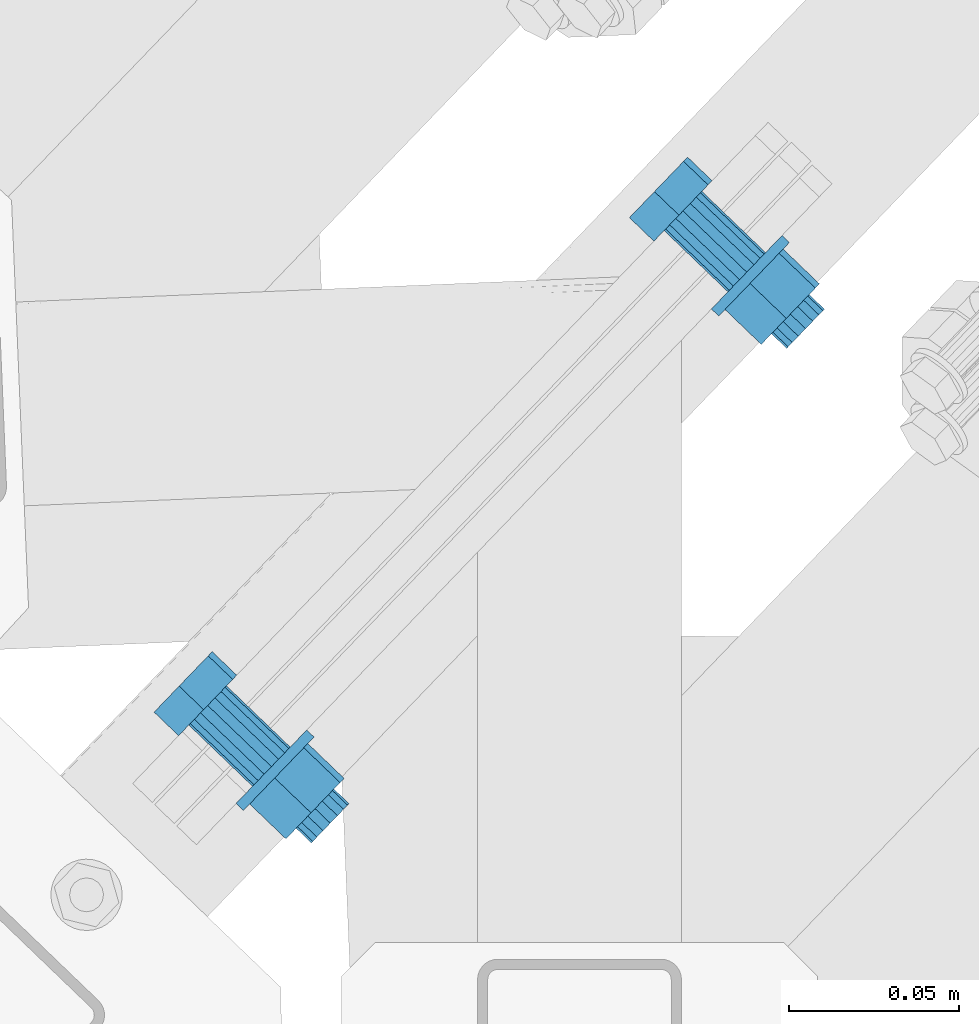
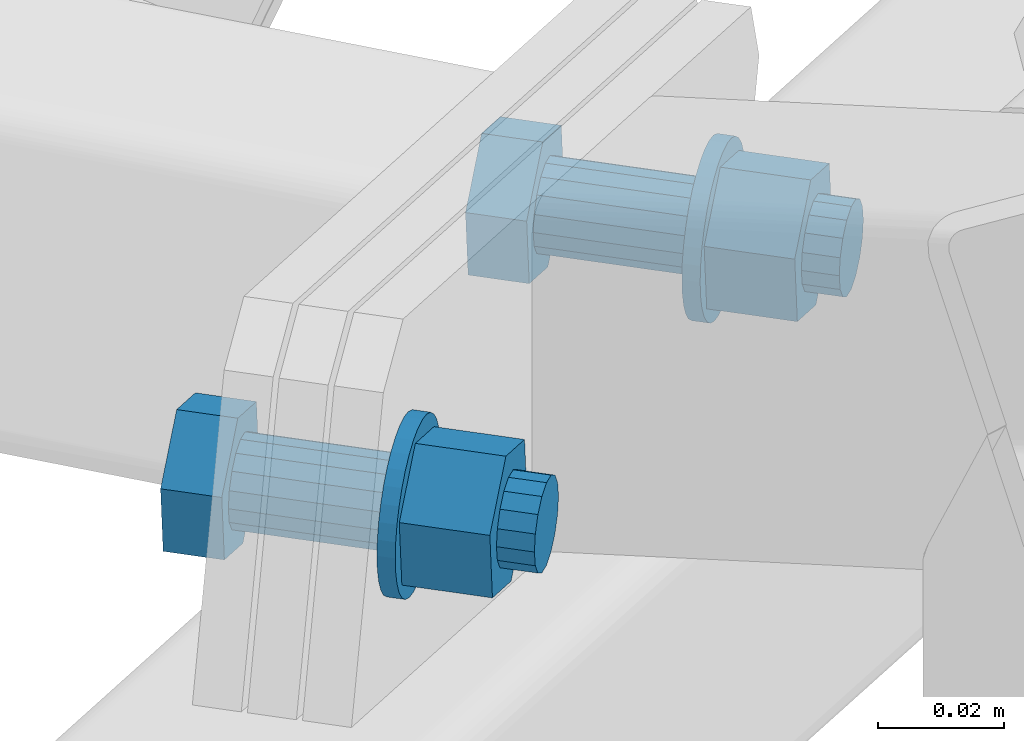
# One storey, part 186 of 288: 2 mechanical fasteners.
"""IFC2X3 building model written with IfcOpenShell, lengths in millimetres."""

from ifc_helpers import new_model, entity, si_unit, converted_unit, origin_with_axes, place, context, project, spatial, faceted_brep, element, save


model = new_model("IFC2X3")

# Units and contexts
model_context = context("Model", 3, precision=1e-09, world=origin_with_axes())
ifc_project = project(units=[si_unit("LENGTHUNIT", "METRE", prefix="MILLI"), si_unit("AREAUNIT", "SQUARE_METRE"), si_unit("VOLUMEUNIT", "CUBIC_METRE"), converted_unit("PLANEANGLEUNIT", "DEGREE", entity("IfcPlaneAngleMeasure", 0.01745329), si_unit("PLANEANGLEUNIT", "RADIAN"), dimensions=[0, 0, 0, 0, 0, 0, 0])], contexts=[model_context])

# Site, building, storey
site_placement = place(None, origin_with_axes())
site = spatial("IfcSite", under=ifc_project, at=site_placement, Name="Remont ?wietlik?w nad MC w NCPP w Opolu", CompositionType="ELEMENT")
building_placement = place(site_placement, origin_with_axes())
building = spatial("IfcBuilding", under=site, at=building_placement, Name="Konstrukcja 1", CompositionType="ELEMENT")
storey_placement = place(building_placement, origin_with_axes())
storey = spatial("IfcBuildingStorey", under=building, at=storey_placement, Name="Default Storey", CompositionType="ELEMENT", Elevation=0.0)

# Mechanical fasteners
mechanical_fastener_1_placement = place(None, origin_with_axes())
element("IfcMechanicalFastener", 1, at=mechanical_fastener_1_placement, inside=storey, ObjectType="-", NominalDiameter=16.0, NominalLength=50.0, context=model_context, shape_type="Brep", body=[
    faceted_brep([(103.271724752, 126.088726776, 1122.711382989), (96.062348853, 133.018726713, 1122.711382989), (103.429799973, 140.683189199, 1130.827250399), (110.639175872, 133.753189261, 1130.827250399), (102.242742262, 139.448276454, 1144.092110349), (109.452118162, 132.518276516, 1144.092110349), (93.688233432, 130.548901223, 1149.24110289), (100.897609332, 123.618901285, 1149.24110289), (86.320782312, 122.884438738, 1141.125235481), (93.530158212, 115.9544388, 1141.125235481), (87.507840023, 124.119351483, 1127.86037553), (94.717215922, 117.189351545, 1127.86037553)], [[[0, 1, 2, 3]], [[3, 2, 4, 5]], [[5, 4, 6, 7]], [[7, 6, 8, 9]], [[9, 8, 10, 11]], [[11, 10, 1, 0]], [[4, 2, 1, 10, 8, 6]], [[0, 3, 5, 7, 9, 11]]]),
    faceted_brep([(104.218948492, 127.074136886, 1143.359670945), (122.963325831, 109.056137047, 1143.359670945), (124.758945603, 110.92414542, 1141.619063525), (106.014568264, 128.942145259, 1141.619063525), (125.956273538, 112.169742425, 1139.019387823), (107.211896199, 130.187742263, 1139.019387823), (126.373027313, 112.603297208, 1135.956420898), (107.628649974, 130.621297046, 1135.956420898), (125.945759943, 112.158804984, 1132.8964717), (107.201382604, 130.176804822, 1132.8964717), (124.739519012, 110.903935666, 1130.305389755), (105.995141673, 128.921935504, 1130.305389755), (122.937943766, 109.02973173, 1128.577643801), (104.193566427, 127.047731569, 1128.577643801), (120.815307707, 106.821523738, 1127.976267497), (102.070930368, 124.839523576, 1127.976267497), (118.694762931, 104.615491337, 1128.592814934), (99.950385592, 122.633491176, 1128.592814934), (116.899143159, 102.747482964, 1130.333422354), (98.15476582, 120.765482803, 1130.333422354), (115.701815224, 101.50188596, 1132.933098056), (96.957437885, 119.519885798, 1132.933098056), (115.285061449, 101.068331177, 1135.996064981), (96.54068411, 119.086331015, 1135.996064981), (115.712328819, 101.5128234, 1139.056014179), (96.96795148, 119.530823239, 1139.056014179), (116.918569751, 102.767692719, 1141.647096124), (98.174192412, 120.785692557, 1141.647096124), (118.720144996, 104.641896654, 1143.374842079), (99.975767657, 122.659896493, 1143.374842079), (120.842781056, 106.850104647, 1143.976218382), (102.098403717, 124.868104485, 1143.976218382)], [[[0, 1, 2, 3]], [[3, 2, 4, 5]], [[5, 4, 6, 7]], [[7, 6, 8, 9]], [[9, 8, 10, 11]], [[11, 10, 12, 13]], [[13, 12, 14, 15]], [[15, 14, 16, 17]], [[17, 16, 18, 19]], [[19, 18, 20, 21]], [[21, 20, 22, 23]], [[23, 22, 24, 25]], [[25, 24, 26, 27]], [[27, 26, 28, 29]], [[29, 28, 30, 31]], [[31, 30, 1, 0]], [[0, 3, 5, 7, 9, 11, 13, 15, 17, 19, 21, 23, 25, 27, 29, 31]], [[1, 30, 28, 26, 24, 22, 20, 18, 16, 14, 12, 10, 8, 6, 4, 2]]]),
    faceted_brep([(124.830822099, 110.998919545, 1149.82017045), (126.993634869, 108.919919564, 1149.82017045), (128.788407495, 110.787046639, 1148.427600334), (126.625594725, 112.86604662, 1148.427600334), (130.360421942, 112.422435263, 1146.556531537), (128.197609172, 114.501435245, 1146.556531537), (131.649266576, 113.76323837, 1144.278868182), (129.486453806, 115.842238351, 1144.278868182), (132.605411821, 114.757929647, 1141.682139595), (130.442599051, 116.836929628, 1141.682139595), (133.192113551, 115.368283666, 1138.8661366), (131.029300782, 117.447283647, 1138.8661366), (133.386825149, 115.570844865, 1135.939076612), (131.224012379, 117.649844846, 1135.939076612), (133.182063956, 115.357828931, 1133.013444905), (131.019251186, 117.436828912, 1133.013444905), (132.58569883, 114.737421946, 1130.201671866), (130.42288606, 116.816421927, 1130.201671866), (131.620647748, 113.733465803, 1127.611812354), (129.457834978, 115.812465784, 1127.611812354), (130.323997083, 112.384541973, 1125.343393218), (128.161184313, 114.463541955, 1125.343393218), (128.745576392, 110.742488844, 1123.483588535), (126.582763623, 112.821488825, 1123.483588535), (126.946043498, 108.870409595, 1122.103869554), (124.783230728, 110.949409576, 1122.103869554), (124.99455344, 106.840247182, 1121.257258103), (122.83174067, 108.919247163, 1121.257258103), (122.966100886, 104.730019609, 1120.976288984), (120.803288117, 106.80901959, 1120.976288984), (120.938638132, 102.620821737, 1121.271759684), (118.775825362, 104.699821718, 1121.271759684), (118.990079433, 100.593708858, 1122.132315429), (116.827266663, 102.672708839, 1122.132315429), (117.195306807, 98.726581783, 1123.524885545), (115.032494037, 100.805581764, 1123.524885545), (115.62329236, 97.091193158, 1125.395954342), (113.46047959, 99.17019314, 1125.395954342), (114.334447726, 95.750390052, 1127.673617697), (112.171634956, 97.829390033, 1127.673617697), (113.378302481, 94.755698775, 1130.270346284), (111.215489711, 96.834698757, 1130.270346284), (112.791600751, 94.145344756, 1133.086349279), (110.628787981, 96.224344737, 1133.086349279), (112.596889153, 93.942783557, 1136.013409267), (110.434076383, 96.021783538, 1136.013409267), (112.801650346, 94.155799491, 1138.939040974), (110.638837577, 96.234799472, 1138.939040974), (113.398015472, 94.776206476, 1141.750814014), (111.235202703, 96.855206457, 1141.750814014), (114.363066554, 95.780162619, 1144.340673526), (112.200253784, 97.8591626, 1144.340673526), (115.659717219, 97.129086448, 1146.609092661), (113.496904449, 99.20808643, 1146.609092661), (117.23813791, 98.771139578, 1148.468897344), (115.07532514, 100.85013956, 1148.468897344), (119.037670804, 100.643218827, 1149.848616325), (116.874858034, 102.722218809, 1149.848616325), (120.989160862, 102.67338124, 1150.695227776), (118.826348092, 104.752381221, 1150.695227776), (123.017613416, 104.783608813, 1150.976196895), (120.854800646, 106.862608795, 1150.976196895), (125.04507617, 106.892806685, 1150.680726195), (122.8822634, 108.971806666, 1150.680726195)], [[[0, 1, 2, 3]], [[3, 2, 4, 5]], [[5, 4, 6, 7]], [[7, 6, 8, 9]], [[9, 8, 10, 11]], [[11, 10, 12, 13]], [[13, 12, 14, 15]], [[15, 14, 16, 17]], [[17, 16, 18, 19]], [[19, 18, 20, 21]], [[21, 20, 22, 23]], [[23, 22, 24, 25]], [[25, 24, 26, 27]], [[27, 26, 28, 29]], [[29, 28, 30, 31]], [[31, 30, 32, 33]], [[33, 32, 34, 35]], [[35, 34, 36, 37]], [[37, 36, 38, 39]], [[39, 38, 40, 41]], [[41, 40, 42, 43]], [[43, 42, 44, 45]], [[45, 44, 46, 47]], [[47, 46, 48, 49]], [[49, 48, 50, 51]], [[51, 50, 52, 53]], [[53, 52, 54, 55]], [[55, 54, 56, 57]], [[57, 56, 58, 59]], [[59, 58, 60, 61]], [[61, 60, 62, 63]], [[63, 62, 1, 0]], [[0, 3, 5, 7, 9, 11, 13, 15, 17, 19, 21, 23, 25, 27, 29, 31, 33, 35, 37, 39, 41, 43, 45, 47, 49, 51, 53, 55, 57, 59, 61, 63]], [[1, 62, 60, 58, 56, 54, 52, 50, 48, 46, 44, 42, 40, 38, 36, 34, 32, 30, 28, 26, 24, 22, 20, 18, 16, 14, 12, 10, 8, 6, 4, 2]]]),
    faceted_brep([(134.848791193, 95.735327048, 1122.711382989), (124.178914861, 105.991726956, 1122.711382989), (131.546365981, 113.656189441, 1130.827250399), (142.216242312, 103.399789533, 1130.827250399), (130.359308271, 112.421276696, 1144.092110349), (141.029184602, 102.164876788, 1144.092110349), (121.804799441, 103.521901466, 1149.24110289), (132.474675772, 93.265501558, 1149.24110289), (114.437348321, 95.857438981, 1141.125235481), (125.107224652, 85.601039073, 1141.125235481), (115.624406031, 97.092351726, 1127.86037553), (126.294282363, 86.835951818, 1127.86037553)], [[[0, 1, 2, 3]], [[3, 2, 4, 5]], [[5, 4, 6, 7]], [[7, 6, 8, 9]], [[9, 8, 10, 11]], [[11, 10, 1, 0]], [[4, 2, 1, 10, 8, 6]], [[0, 3, 5, 7, 9, 11]]]),
    faceted_brep([(135.796014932, 96.720737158, 1143.359670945), (140.26582799, 92.424137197, 1143.359670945), (142.061447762, 94.29214557, 1141.619063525), (137.591634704, 98.588745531, 1141.619063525), (143.258775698, 95.537742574, 1139.019387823), (138.78896264, 99.834342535, 1139.019387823), (143.675529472, 95.971297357, 1135.956420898), (139.205716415, 100.267897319, 1135.956420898), (143.248262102, 95.526805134, 1132.8964717), (138.778449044, 99.823405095, 1132.8964717), (142.042021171, 94.271935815, 1130.305389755), (137.572208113, 98.568535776, 1130.305389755), (140.240445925, 92.39773188, 1128.577643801), (135.770632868, 96.694331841, 1128.577643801), (138.117809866, 90.189523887, 1127.976267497), (133.647996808, 94.486123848, 1127.976267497), (135.99726509, 87.983491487, 1128.592814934), (131.527452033, 92.280091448, 1128.592814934), (134.201645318, 86.115483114, 1130.333422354), (129.731832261, 90.412083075, 1130.333422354), (133.004317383, 84.869886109, 1132.933098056), (128.534504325, 89.166486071, 1132.933098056), (132.587563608, 84.436331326, 1135.996064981), (128.11775055, 88.732931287, 1135.996064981), (133.014830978, 84.88082355, 1139.056014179), (128.545017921, 89.177423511, 1139.056014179), (134.22107191, 86.135692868, 1141.647096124), (129.751258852, 90.43229283, 1141.647096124), (136.022647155, 88.009896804, 1143.374842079), (131.552834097, 92.306496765, 1143.374842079), (138.145283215, 90.218104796, 1143.976218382), (133.675470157, 94.514704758, 1143.976218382)], [[[0, 1, 2, 3]], [[3, 2, 4, 5]], [[5, 4, 6, 7]], [[7, 6, 8, 9]], [[9, 8, 10, 11]], [[11, 10, 12, 13]], [[13, 12, 14, 15]], [[15, 14, 16, 17]], [[17, 16, 18, 19]], [[19, 18, 20, 21]], [[21, 20, 22, 23]], [[23, 22, 24, 25]], [[25, 24, 26, 27]], [[27, 26, 28, 29]], [[29, 28, 30, 31]], [[31, 30, 1, 0]], [[0, 3, 5, 7, 9, 11, 13, 15, 17, 19, 21, 23, 25, 27, 29, 31]], [[1, 30, 28, 26, 24, 22, 20, 18, 16, 14, 12, 10, 8, 6, 4, 2]]]),
])
mechanical_fastener_2_placement = place(None, origin_with_axes())
element("IfcMechanicalFastener", 2, at=mechanical_fastener_2_placement, inside=storey, ObjectType="-", NominalDiameter=16.0, NominalLength=50.0, context=model_context, shape_type="Brep", body=[
    faceted_brep([(-36.545565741, -19.365156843, 1206.375109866), (-43.75494164, -12.435156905, 1206.375109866), (-36.387490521, -4.77069442, 1214.490977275), (-29.178114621, -11.700694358, 1214.490977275), (-37.574548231, -6.005607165, 1227.755837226), (-30.365172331, -12.935607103, 1227.755837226), (-46.129057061, -14.904982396, 1232.904829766), (-38.919681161, -21.834982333, 1232.904829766), (-53.496508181, -22.569444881, 1224.788962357), (-46.287132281, -29.499444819, 1224.788962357), (-52.309450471, -21.334532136, 1211.524102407), (-45.100074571, -28.264532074, 1211.524102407)], [[[0, 1, 2, 3]], [[3, 2, 4, 5]], [[5, 4, 6, 7]], [[7, 6, 8, 9]], [[9, 8, 10, 11]], [[11, 10, 1, 0]], [[4, 2, 1, 10, 8, 6]], [[0, 3, 5, 7, 9, 11]]]),
    faceted_brep([(-35.598342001, -18.379746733, 1227.023397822), (-16.853964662, -36.397746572, 1227.023397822), (-15.05834489, -34.529738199, 1225.282790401), (-33.802722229, -16.51173836, 1225.282790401), (-13.861016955, -33.284141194, 1222.683114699), (-32.605394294, -15.266141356, 1222.683114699), (-13.44426318, -32.850586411, 1219.620147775), (-32.188640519, -14.832586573, 1219.620147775), (-13.87153055, -33.295078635, 1216.560198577), (-32.615907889, -15.277078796, 1216.560198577), (-15.077771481, -34.549947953, 1213.969116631), (-33.82214882, -16.531948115, 1213.969116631), (-16.879346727, -36.424151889, 1212.241370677), (-35.623724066, -18.40615205, 1212.241370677), (-19.001982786, -38.632359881, 1211.639994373), (-37.746360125, -20.614360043, 1211.639994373), (-21.122527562, -40.838392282, 1212.256541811), (-39.866904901, -22.820392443, 1212.256541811), (-22.918147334, -42.706400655, 1213.997149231), (-41.662524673, -24.688400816, 1213.997149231), (-24.115475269, -43.951997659, 1216.596824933), (-42.859852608, -25.933997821, 1216.596824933), (-24.532229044, -44.385552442, 1219.659791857), (-43.276606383, -26.367552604, 1219.659791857), (-24.104961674, -43.941060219, 1222.719741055), (-42.849339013, -25.92306038, 1222.719741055), (-22.898720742, -42.6861909, 1225.310823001), (-41.643098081, -24.668191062, 1225.310823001), (-21.097145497, -40.811986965, 1227.038568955), (-39.841522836, -22.793987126, 1227.038568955), (-18.974509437, -38.603778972, 1227.639945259), (-37.718886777, -20.585779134, 1227.639945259)], [[[0, 1, 2, 3]], [[3, 2, 4, 5]], [[5, 4, 6, 7]], [[7, 6, 8, 9]], [[9, 8, 10, 11]], [[11, 10, 12, 13]], [[13, 12, 14, 15]], [[15, 14, 16, 17]], [[17, 16, 18, 19]], [[19, 18, 20, 21]], [[21, 20, 22, 23]], [[23, 22, 24, 25]], [[25, 24, 26, 27]], [[27, 26, 28, 29]], [[29, 28, 30, 31]], [[31, 30, 1, 0]], [[0, 3, 5, 7, 9, 11, 13, 15, 17, 19, 21, 23, 25, 27, 29, 31]], [[1, 30, 28, 26, 24, 22, 20, 18, 16, 14, 12, 10, 8, 6, 4, 2]]]),
    faceted_brep([(-14.986468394, -34.454964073, 1233.483897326), (-12.823655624, -36.533964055, 1233.483897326), (-11.028882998, -34.66683698, 1232.091327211), (-13.191695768, -32.587836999, 1232.091327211), (-9.456868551, -33.031448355, 1230.220258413), (-11.619681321, -30.952448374, 1230.220258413), (-8.168023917, -31.690645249, 1227.942595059), (-10.330836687, -29.611645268, 1227.942595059), (-7.211878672, -30.695953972, 1225.345866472), (-9.374691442, -28.616953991, 1225.345866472), (-6.625176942, -30.085599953, 1222.529863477), (-8.787989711, -28.006599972, 1222.529863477), (-6.430465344, -29.883038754, 1219.602803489), (-8.593278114, -27.804038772, 1219.602803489), (-6.635226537, -30.096054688, 1216.677171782), (-8.798039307, -28.017054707, 1216.677171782), (-7.231591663, -30.716461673, 1213.865398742), (-9.394404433, -28.637461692, 1213.865398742), (-8.196642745, -31.720417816, 1211.27553923), (-10.359455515, -29.641417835, 1211.27553923), (-9.49329341, -33.069341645, 1209.007120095), (-11.65610618, -30.990341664, 1209.007120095), (-11.071714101, -34.711394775, 1207.147315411), (-13.23452687, -32.632394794, 1207.147315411), (-12.871246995, -36.583474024, 1205.76759643), (-15.034059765, -34.504474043, 1205.76759643), (-14.822737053, -38.613636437, 1204.920984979), (-16.985549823, -36.534636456, 1204.920984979), (-16.851189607, -40.72386401, 1204.640015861), (-19.014002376, -38.644864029, 1204.640015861), (-18.878652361, -42.833061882, 1204.935486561), (-21.041465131, -40.754061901, 1204.935486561), (-20.82721106, -44.860174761, 1205.796042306), (-22.99002383, -42.78117478, 1205.796042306), (-22.621983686, -46.727301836, 1207.188612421), (-24.784796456, -44.648301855, 1207.188612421), (-24.193998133, -48.362690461, 1209.059681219), (-26.356810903, -46.283690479, 1209.059681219), (-25.482842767, -49.703493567, 1211.337344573), (-27.645655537, -47.624493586, 1211.337344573), (-26.438988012, -50.698184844, 1213.93407316), (-28.601800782, -48.619184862, 1213.93407316), (-27.025689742, -51.308538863, 1216.750076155), (-29.188502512, -49.229538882, 1216.750076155), (-27.22040134, -51.511100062, 1219.677136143), (-29.38321411, -49.432100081, 1219.677136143), (-27.015640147, -51.298084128, 1222.60276785), (-29.178452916, -49.219084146, 1222.60276785), (-26.419275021, -50.677677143, 1225.41454089), (-28.58208779, -48.598677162, 1225.41454089), (-25.454223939, -49.673721, 1228.004400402), (-27.617036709, -47.594721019, 1228.004400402), (-24.157573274, -48.32479717, 1230.272819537), (-26.320386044, -46.245797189, 1230.272819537), (-22.579152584, -46.682744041, 1232.132624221), (-24.741965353, -44.603744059, 1232.132624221), (-20.779619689, -44.810664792, 1233.512343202), (-22.942432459, -42.73166481, 1233.512343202), (-18.828129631, -42.780502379, 1234.358954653), (-20.990942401, -40.701502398, 1234.358954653), (-16.799677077, -40.670274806, 1234.639923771), (-18.962489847, -38.591274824, 1234.639923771), (-14.772214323, -38.561076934, 1234.344453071), (-16.935027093, -36.482076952, 1234.344453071)], [[[0, 1, 2, 3]], [[3, 2, 4, 5]], [[5, 4, 6, 7]], [[7, 6, 8, 9]], [[9, 8, 10, 11]], [[11, 10, 12, 13]], [[13, 12, 14, 15]], [[15, 14, 16, 17]], [[17, 16, 18, 19]], [[19, 18, 20, 21]], [[21, 20, 22, 23]], [[23, 22, 24, 25]], [[25, 24, 26, 27]], [[27, 26, 28, 29]], [[29, 28, 30, 31]], [[31, 30, 32, 33]], [[33, 32, 34, 35]], [[35, 34, 36, 37]], [[37, 36, 38, 39]], [[39, 38, 40, 41]], [[41, 40, 42, 43]], [[43, 42, 44, 45]], [[45, 44, 46, 47]], [[47, 46, 48, 49]], [[49, 48, 50, 51]], [[51, 50, 52, 53]], [[53, 52, 54, 55]], [[55, 54, 56, 57]], [[57, 56, 58, 59]], [[59, 58, 60, 61]], [[61, 60, 62, 63]], [[63, 62, 1, 0]], [[0, 3, 5, 7, 9, 11, 13, 15, 17, 19, 21, 23, 25, 27, 29, 31, 33, 35, 37, 39, 41, 43, 45, 47, 49, 51, 53, 55, 57, 59, 61, 63]], [[1, 62, 60, 58, 56, 54, 52, 50, 48, 46, 44, 42, 40, 38, 36, 34, 32, 30, 28, 26, 24, 22, 20, 18, 16, 14, 12, 10, 8, 6, 4, 2]]]),
    faceted_brep([(-4.9684993, -49.718556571, 1206.375109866), (-15.638375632, -39.462156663, 1206.375109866), (-8.270924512, -31.797694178, 1214.490977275), (2.398951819, -42.054094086, 1214.490977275), (-9.457982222, -33.032606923, 1227.755837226), (1.211894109, -43.289006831, 1227.755837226), (-18.012491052, -41.931982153, 1232.904829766), (-7.342614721, -52.188382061, 1232.904829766), (-25.379942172, -49.596444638, 1224.788962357), (-14.710065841, -59.852844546, 1224.788962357), (-24.192884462, -48.361531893, 1211.524102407), (-13.523008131, -58.617931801, 1211.524102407)], [[[0, 1, 2, 3]], [[3, 2, 4, 5]], [[5, 4, 6, 7]], [[7, 6, 8, 9]], [[9, 8, 10, 11]], [[11, 10, 1, 0]], [[4, 2, 1, 10, 8, 6]], [[0, 3, 5, 7, 9, 11]]]),
    faceted_brep([(-4.021275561, -48.733146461, 1227.023397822), (0.448537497, -53.029746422, 1227.023397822), (2.244157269, -51.161738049, 1225.282790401), (-2.225655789, -46.865138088, 1225.282790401), (3.441485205, -49.916141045, 1222.683114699), (-1.028327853, -45.619541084, 1222.683114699), (3.858238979, -49.482586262, 1219.620147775), (-0.611574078, -45.1859863, 1219.620147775), (3.430971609, -49.927078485, 1216.560198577), (-1.038841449, -45.630478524, 1216.560198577), (2.224730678, -51.181947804, 1213.969116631), (-2.24508238, -46.885347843, 1213.969116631), (0.423155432, -53.056151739, 1212.241370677), (-4.046657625, -48.759551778, 1212.241370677), (-1.699480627, -55.264359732, 1211.639994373), (-6.169293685, -50.96775977, 1211.639994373), (-3.820025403, -57.470392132, 1212.256541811), (-8.28983846, -53.173792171, 1212.256541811), (-5.615645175, -59.338400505, 1213.997149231), (-10.085458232, -55.041800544, 1213.997149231), (-6.81297311, -60.58399751, 1216.596824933), (-11.282786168, -56.287397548, 1216.596824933), (-7.229726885, -61.017552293, 1219.659791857), (-11.699539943, -56.720952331, 1219.659791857), (-6.802459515, -60.573060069, 1222.719741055), (-11.272272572, -56.276460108, 1222.719741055), (-5.596218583, -59.318190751, 1225.310823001), (-10.066031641, -55.021590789, 1225.310823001), (-3.794643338, -57.443986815, 1227.038568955), (-8.264456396, -53.147386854, 1227.038568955), (-1.672007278, -55.235778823, 1227.639945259), (-6.141820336, -50.939178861, 1227.639945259)], [[[0, 1, 2, 3]], [[3, 2, 4, 5]], [[5, 4, 6, 7]], [[7, 6, 8, 9]], [[9, 8, 10, 11]], [[11, 10, 12, 13]], [[13, 12, 14, 15]], [[15, 14, 16, 17]], [[17, 16, 18, 19]], [[19, 18, 20, 21]], [[21, 20, 22, 23]], [[23, 22, 24, 25]], [[25, 24, 26, 27]], [[27, 26, 28, 29]], [[29, 28, 30, 31]], [[31, 30, 1, 0]], [[0, 3, 5, 7, 9, 11, 13, 15, 17, 19, 21, 23, 25, 27, 29, 31]], [[1, 30, 28, 26, 24, 22, 20, 18, 16, 14, 12, 10, 8, 6, 4, 2]]]),
])

save(model, "model.ifc")
